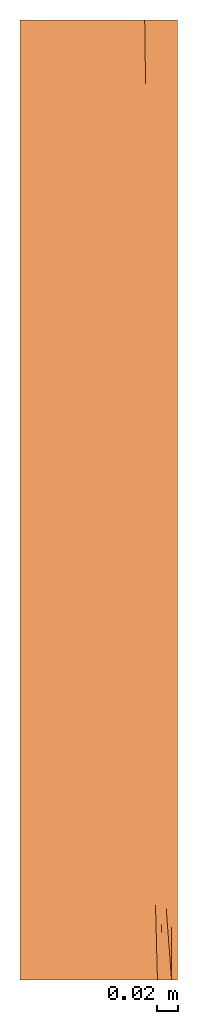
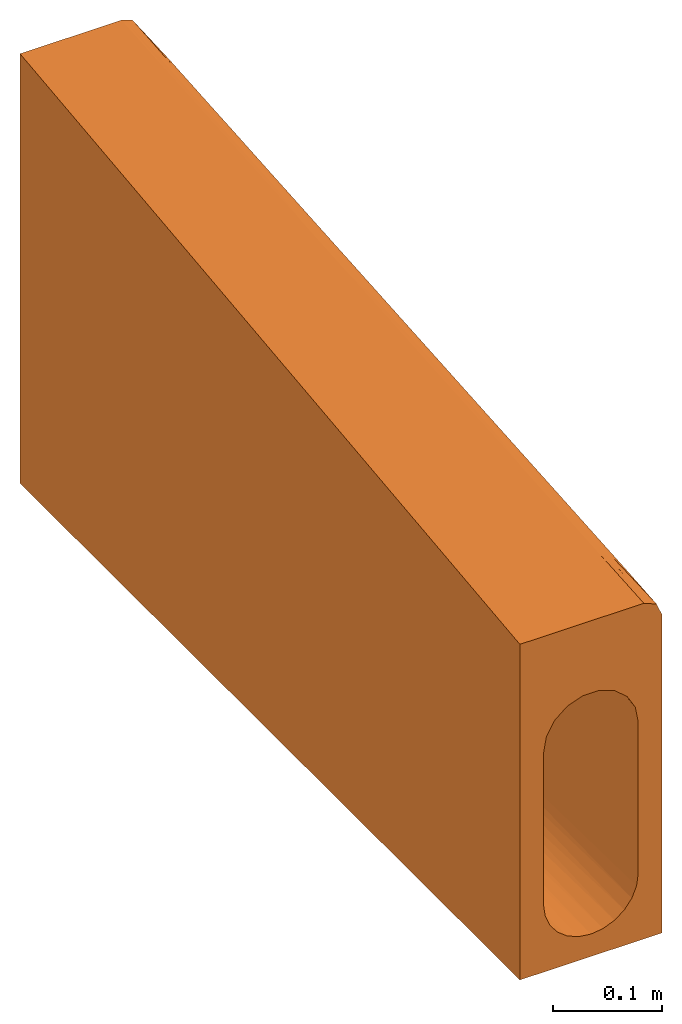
# One storey: 1 proxy.
"""IFC2X3 building model written with IfcOpenShell, lengths in millimetres."""

from ifc_helpers import new_model, entity, si_unit, converted_unit, direction, frame, origin, place, context, subcontext, project, spatial, faceted_brep, source, transform, mapped, material, element, save


model = new_model("IFC2X3")

# Units and contexts
model_context = context("Model", 3, precision=1e-06, world=origin(), true_north=direction((2.0, 6.12303176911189e-17, 1.0)))
context_of_model = context(None, 3, precision=1e-06, world=origin(), true_north=direction((2.0, 6.12303176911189e-17, 1.0)))
body_context = subcontext(model_context, "Body", "Model", "MODEL_VIEW")
ifc_project = project(units=[si_unit("LENGTHUNIT", "METRE", prefix="MILLI"), si_unit("AREAUNIT", "SQUARE_METRE", prefix="MILLI"), si_unit("VOLUMEUNIT", "CUBIC_METRE", prefix="MILLI"), converted_unit("PLANEANGLEUNIT", "DEGREE", entity("IfcRatioMeasure", 0.0174532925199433), si_unit("PLANEANGLEUNIT", "RADIAN"), dimensions=[0, 0, 0, 0, 0, 0, 0]), si_unit("TIMEUNIT", "SECOND")], contexts=[model_context, context_of_model])

# Site, building, storey
site_placement = place(None, origin())
site = spatial("IfcSite", under=ifc_project, at=site_placement, Name="Default", CompositionType="ELEMENT")
building_placement = place(site_placement, origin())
building = spatial("IfcBuilding", under=site, at=building_placement, CompositionType="ELEMENT")
storey_placement = place(building_placement, frame((0.0, 0.0, -300.0)))
storey = spatial("IfcBuildingStorey", under=building, at=storey_placement, Name="T.O. Fnd. Wall", CompositionType="ELEMENT", Elevation=-300.0)

# Proxy
ifc_material = material(Name="ACO Polymer Concrete.")
shared_shape = source(origin(), body_context, "Body", "Brep", [
    faceted_brep([(-75.0, 915.0, -355.0), (-25.0, 915.0, -323.301270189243), (-12.9409522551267, 915.0, -328.296291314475), (-35.3553390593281, 915.0, -315.355339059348), (0.0, 915.0, -330.0), (-50.0, 915.0, -280.0), (-48.2962913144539, 915.0, -292.940952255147), (-43.3012701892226, 915.0, -305.0), (-50.0, 915.0, -5.0), (-75.0, 915.0, 125.0), (12.9409522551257, 915.0, -328.296291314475), (75.0, 915.0, -355.0), (25.0, 915.0, -323.301270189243), (35.3553390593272, 915.0, -315.355339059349), (43.3012701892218, 915.0, -305.0), (48.2962913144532, 915.0, -292.940952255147), (50.0, 915.0, -280.0), (75.0, 915.0, 20.0), (50.0, 915.0, -5.0), (-46.9862804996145, 915.0, 12.0964746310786), (-38.311609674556, 915.0, 27.1281895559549), (-8.68537778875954, 915.0, 44.2398640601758), (-16.8455091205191, 915.0, 41.2689386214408), (32.2861220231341, 915.0, 125.0), (-25.0056404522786, 915.0, 38.2980131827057), (-31.6586250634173, 915.0, 32.7131013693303), (8.67379421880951, 915.0, 44.2419058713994), (50.6387127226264, 915.0, 110.917561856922), (46.9852258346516, 915.0, 12.0993728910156), (42.6413912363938, 915.0, 19.6221563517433), (38.297556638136, 915.0, 27.144939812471), (25.0028027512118, 915.0, 38.299651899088), (16.8382984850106, 915.0, 41.2707788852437), (35.1777388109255, 915.0, 124.018428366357), (45.5491200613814, 915.0, 118.534675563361), (47.2456509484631, 915.0, 115.995637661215), (75.0, 0.0, -355.0), (12.9409522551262, 0.0, -328.296291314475), (0.0, 0.0, -330.0), (-75.0, 0.0, -355.0), (25.0, 0.0, -323.301270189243), (48.2962913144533, 0.0, -292.940952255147), (43.3012701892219, 0.0, -305.0), (35.3553390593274, 0.0, -315.355339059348), (50.0, 0.0, -280.0), (-12.9409522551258, 0.0, -328.296291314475), (-25.0, 0.0, -323.301270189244), (-35.3553390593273, 0.0, -315.355339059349), (-43.3012701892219, 0.0, -305.0), (-48.2962913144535, 0.0, -292.940952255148), (-50.0, 0.0, -280.0), (-50.0, 0.0, -110.0), (-75.0, 0.0, 20.0), (50.0, 0.0, -110.0), (75.0, 0.0, 1.0), (46.9852258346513, 0.0, -92.9006271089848), (73.6087572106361, 0.0, 4.35875721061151), (66.0762716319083, 0.0, 15.8262716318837), (62.7175144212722, 0.0, 17.2175144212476), (56.0, 0.0, 20.0), (25.0028027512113, 0.0, -66.7003481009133), (38.2975566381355, 0.0, -77.8550601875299), (42.6413912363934, 0.0, -85.3778436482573), (-38.3116096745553, 0.0, -77.8718104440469), (-31.6586250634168, 0.0, -72.2868986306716), (-25.0056404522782, 0.0, -66.7019868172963), (-46.9862804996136, 0.0, -92.9035253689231), (8.67379421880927, 0.0, -60.7580941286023), (16.8382984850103, 0.0, -63.7292211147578), (-16.8455091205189, 0.0, -63.7310613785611), (-8.68537778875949, 0.0, -60.760135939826), (53.9592282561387, 78.7431793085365, 29.0361025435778), (52.3061479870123, 142.527282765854, 36.355589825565), (46.1939766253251, 457.499999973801, -299.134171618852), (6.52630960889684, 663.022798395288, -329.572243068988), (19.1341716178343, 457.499999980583, -326.193976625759), (39.6676670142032, 347.332704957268, -310.438071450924), (39.6676670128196, 663.022798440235, -310.438071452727), (30.4380714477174, 567.667295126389, -319.667667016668), (30.4380714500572, 251.977201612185, -319.667667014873), (-39.6676670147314, 251.977201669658, -310.438071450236), (-30.4380714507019, 347.332704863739, -319.667667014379), (-39.6676670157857, 567.667295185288, -310.438071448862), (-30.4380714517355, 663.022798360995, -319.667667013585), (6.52630961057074, 347.332704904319, -329.572243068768), (49.039264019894, 307.805136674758, -289.754516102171), (49.1517479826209, 621.55277183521, -289.170914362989), (50.0, 457.5, -280.0), (-6.52630961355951, 567.66729515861, -329.572243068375), (-6.52630961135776, 251.977201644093, -329.572243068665), (-19.1341716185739, 457.499999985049, -326.193976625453), (-46.1939766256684, 457.499999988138, -299.134171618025), (-49.1517479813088, 293.447228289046, -289.170914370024), (-50.0, 457.5, -280.0), (-49.0392640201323, 607.194863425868, -289.754516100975), (50.0, 228.749977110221, -83.7500026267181), (-45.6161846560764, 151.374253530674, -72.1556963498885), (-40.525441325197, 151.691640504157, -63.3064414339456), (-26.1425835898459, 319.117169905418, -30.758812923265), (-22.6264142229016, 468.087887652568, -11.6974939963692), (-17.1054853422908, 291.895291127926, -29.52081817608), (-13.7351261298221, 139.743498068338, -45.8873977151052), (-0.005883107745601, 207.708977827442, -36.1645438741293), (-45.4895057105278, 457.499999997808, -36.746569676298), (-43.3061272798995, 291.929965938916, -51.5082545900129), (-48.4959124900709, 343.124993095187, -58.4534572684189), (-50.0, 228.7500118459, -83.7499986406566), (-48.8150241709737, 156.499635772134, -81.2200543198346), (-43.3061272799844, 623.070034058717, -13.5085746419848), (-32.1474698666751, 707.32437630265, 9.46380395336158), (-39.7970535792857, 438.303503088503, -29.4341712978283), (-25.3659134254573, 643.403662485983, 6.92114557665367), (-17.1054853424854, 623.104708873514, 8.48681992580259), (-23.1017905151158, 162.530842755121, -47.0058562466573), (-11.6402777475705, 459.893930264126, -8.59912157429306), (-32.1474698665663, 207.675623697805, -47.8729381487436), (-48.4799848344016, 569.265502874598, -32.4396202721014), (-50.0, 686.2499881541, -31.2500013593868), (-48.7942808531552, 756.658782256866, -12.2561772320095), (-50.0, 457.499976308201, -57.5000027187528), (-0.00588310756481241, 707.291022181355, 21.1645431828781), (-11.4413517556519, 757.325485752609, 25.57955810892), (-21.1360240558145, 769.052356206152, 23.5649154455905), (13.9181850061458, 138.224516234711, -46.1143831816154), (8.59170627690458, 254.404820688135, -31.5497093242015), (32.1378413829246, 707.279567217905, 9.46674258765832), (40.5244871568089, 763.441112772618, 6.89563798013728), (45.6152645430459, 763.599441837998, -1.8982969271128), (43.2998920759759, 623.114424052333, -13.4926792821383), (48.4789772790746, 345.621480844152, -58.0996966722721), (48.7949775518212, 158.257618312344, -80.9282784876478), (48.8148206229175, 758.504515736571, -12.1366089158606), (48.4942189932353, 571.874971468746, -32.1967142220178), (45.5828308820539, 150.80227960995, -72.1471799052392), (40.4735315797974, 152.216382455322, -63.1745279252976), (39.7915875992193, 476.642308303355, -25.0274509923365), (43.2998920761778, 291.885575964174, -51.5025470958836), (32.1378413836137, 207.720432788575, -47.8597154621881), (25.8163549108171, 615.344756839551, 3.43290560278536), (22.522146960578, 757.351350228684, 21.5494322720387), (12.9353951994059, 769.053615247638, 26.5498341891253), (-45.5822848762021, 764.25031467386, -1.750292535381), (23.2661286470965, 163.982440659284, -46.9252840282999), (21.094437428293, 457.5000000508, -12.1676196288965), (17.0984146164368, 291.89277535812, -29.5185331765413), (10.7994643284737, 482.627578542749, -5.79672071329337), (26.1834725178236, 322.201260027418, -30.4300080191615), (32.1378446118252, 457.500000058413, -19.1964891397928), (50.0, 457.499954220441, -57.5000052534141), (50.0, 686.249977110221, -31.2500026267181), (45.4872268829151, 457.500000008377, -36.7415754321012), (-32.1474703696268, 457.500000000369, -19.2045675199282), (-40.4721208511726, 762.621200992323, 6.87387142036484), (8.26860876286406, 643.400208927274, 13.1443724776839), (-0.00588490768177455, 457.500000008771, -7.50000034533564), (17.0984146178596, 623.107224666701, 8.48968231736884), (72.6220744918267, 63.0394066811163, 13.3938506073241), (72.903513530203, 78.7431755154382, 10.45929821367), (60.3981256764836, 337.462938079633, 53.3883556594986), (61.4656852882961, 386.236368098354, 56.2271285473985), (58.1336424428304, 410.412668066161, 62.10871142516), (41.1833526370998, 718.142058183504, 102.024389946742), (36.3676655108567, 757.513641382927, 106.927794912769), (38.408437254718, 678.770462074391, 97.8916923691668), (58.647658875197, 580.676489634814, 74.2343415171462), (59.024658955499, 600.027284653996, 73.0803674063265), (56.6881105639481, 635.526354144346, 81.8705673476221), (54.8316858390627, 757.513642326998, 91.9989646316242), (52.1817413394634, 796.885235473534, 101.150005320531), (54.5454335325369, 716.297704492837, 91.2849539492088), (68.9868084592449, 196.857953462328, 29.1453539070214), (66.7114192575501, 282.821372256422, 39.0852852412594), (66.0509768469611, 236.229546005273, 37.9690848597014), (39.5007441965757, 783.963138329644, 109.57346368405), (62.6734491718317, 421.868187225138, 56.2522396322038), (61.4901920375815, 477.365401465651, 61.8907437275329), (58.841233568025, 477.218855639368, 67.0354991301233), (48.0776300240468, 531.870735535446, 80.0992897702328), (51.5115430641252, 480.592430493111, 73.3826102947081), (51.52174468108, 531.37678792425, 78.5261044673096), (42.4365141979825, 810.412630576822, 111.474521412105), (46.5852401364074, 776.442357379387, 105.775031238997), (44.7612265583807, 847.072537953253, 113.884668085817), (64.1896697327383, 312.067775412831, 46.4721760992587), (64.8140710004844, 350.604544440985, 47.2655943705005), (66.6140539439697, 314.972708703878, 38.8371936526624), (64.716705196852, 386.236352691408, 47.3979870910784), (64.1697484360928, 70.8722623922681, 25.2773272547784), (66.6271500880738, 119.388736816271, 27.8133275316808), (62.201017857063, 153.739993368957, 34.666681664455), (52.3199398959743, 324.426173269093, 56.6271062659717), (52.6417642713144, 272.502389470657, 50.9037965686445), (57.7970659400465, 302.828823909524, 52.0989277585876), (50.1115053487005, 403.169350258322, 65.7053422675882), (44.530752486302, 442.540924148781, 70.7833847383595), (46.5715242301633, 363.797744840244, 61.747282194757), (47.9520052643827, 470.310295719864, 73.5093943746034), (70.8070268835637, 157.486357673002, 19.9185972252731), (68.7105404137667, 236.22953318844, 29.3778954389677), (55.3130516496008, 470.099428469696, 70.0309525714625), (54.6513521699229, 528.763653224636, 76.0597942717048), (62.3149828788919, 264.7271658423, 45.0187598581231), (58.0987621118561, 167.339743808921, 38.074454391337), (58.4362881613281, 110.635255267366, 31.9381889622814), (59.7571586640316, 51.1957895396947, 25.1810307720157), (69.9905013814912, 104.728770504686, 22.0030108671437), (68.023256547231, 170.490327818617, 29.992392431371), (50.7645656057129, 609.311082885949, 86.6876848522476), (55.3022131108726, 594.187587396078, 81.1269469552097), (48.8342274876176, 855.437693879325, 110.790683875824), (50.7587998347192, 863.011308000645, 108.205344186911), (45.9005811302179, 678.770470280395, 96.3403789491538), (42.715542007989, 656.669360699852, 94.9821555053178), (44.1693903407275, 744.591550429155, 103.906734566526), (46.3672864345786, 607.224558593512, 88.6656892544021), (48.9958986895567, 710.400763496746, 97.6845467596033), (40.9609723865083, 915.0, 122.055285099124), (41.3423634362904, 866.137108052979, 117.718786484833), (51.8654682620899, 742.415632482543, 97.6430259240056), (49.0302410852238, 799.972124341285, 105.861017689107), (52.7351993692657, 836.256817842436, 101.458262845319), (64.7911126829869, 190.357270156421, 35.9392493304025), (70.8682989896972, 131.107566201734, 21.0614236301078), (48.9421818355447, 915.0, 113.456599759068), (53.1663502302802, 678.770470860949, 90.7750786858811), (56.9281723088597, 678.77046681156, 82.5396664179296), (60.9220077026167, 528.763640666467, 64.5195739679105), (59.4435548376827, 528.763650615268, 69.6218389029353), (49.2293843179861, 662.028784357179, 92.8525746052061), (57.2748063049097, 535.991532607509, 73.8394526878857), (42.4899807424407, 521.284103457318, 79.8194872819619), (56.6554472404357, 363.343511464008, 58.7790229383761), (54.3239825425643, 423.457208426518, 66.1394004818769), (40.4492089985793, 600.027282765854, 88.8555898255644), (34.3268937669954, 836.256820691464, 115.963897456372), (38.0619209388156, 851.922983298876, 117.303720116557), (43.8525891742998, 915.0, 121.073713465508), (48.6122959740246, 285.054565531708, 52.7111796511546), (50.4592219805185, 213.790924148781, 44.5333847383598), (59.7429440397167, 236.077510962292, 44.3121282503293), (62.8193564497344, 457.499996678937, 55.9587805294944), (55.7622858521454, 225.552118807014, 45.0315792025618), (58.6375354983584, 0.0, 18.9074970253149), (69.4752237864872, 57.2312735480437, 19.2615710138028), (71.5445373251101, 54.2404560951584, 15.7680289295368), (69.4350288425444, 0.0, 14.4350288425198), (70.8262716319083, 0.0, 11.0762716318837), (38.0693555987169, 915.0, 123.036856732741), (72.2175144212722, 0.0, 7.71751442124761)], [[[0, 1, 2]], [[1, 0, 3]], [[0, 2, 4]], [[5, 6, 0]], [[7, 3, 0]], [[6, 7, 0]], [[8, 5, 0, 9]], [[4, 10, 11, 0]], [[11, 12, 13]], [[12, 11, 10]], [[13, 14, 11]], [[15, 16, 11]], [[14, 15, 11]], [[17, 11, 16, 18]], [[19, 8, 9]], [[20, 19, 9]], [[21, 22, 9, 23]], [[9, 24, 25, 20]], [[26, 21, 23, 27]], [[17, 28, 29, 30]], [[17, 18, 28]], [[27, 17, 30, 31]], [[27, 31, 32, 26]], [[23, 33, 34, 35]], [[36, 37, 38, 39]], [[37, 36, 40]], [[41, 42, 36]], [[43, 40, 36]], [[42, 43, 36]], [[36, 44, 41]], [[39, 45, 46]], [[45, 39, 38]], [[39, 46, 47]], [[47, 48, 39]], [[49, 50, 39]], [[48, 49, 39]], [[39, 50, 51, 52]], [[53, 44, 36, 54]], [[55, 53, 54]], [[54, 56, 57, 58]], [[54, 59, 60, 61]], [[54, 61, 62, 55]], [[52, 63, 64, 65]], [[51, 66, 52]], [[63, 52, 66]], [[59, 67, 68, 60]], [[52, 65, 69, 70]], [[70, 67, 59, 52]], [[0, 11, 36, 39]], [[0, 39, 52, 9]], [[9, 52, 23]], [[52, 59, 71, 72]], [[11, 17, 54, 36]], [[42, 41, 73]], [[10, 74, 75]], [[76, 77, 78, 79]], [[73, 76, 42]], [[37, 40, 75]], [[80, 47, 81]], [[3, 82, 83]], [[78, 75, 79]], [[14, 77, 73]], [[37, 75, 84]], [[85, 73, 41]], [[86, 87, 16]], [[44, 85, 41]], [[76, 43, 42]], [[13, 12, 78]], [[73, 15, 14]], [[4, 2, 88]], [[77, 76, 73]], [[75, 78, 12]], [[81, 47, 46]], [[75, 12, 10]], [[84, 38, 37]], [[74, 84, 75]], [[84, 74, 88, 89]], [[46, 45, 90]], [[89, 38, 84]], [[4, 88, 74]], [[90, 81, 46]], [[49, 48, 91]], [[80, 48, 47]], [[79, 43, 76]], [[82, 91, 80]], [[3, 83, 1]], [[92, 93, 50]], [[88, 2, 90]], [[90, 2, 1]], [[79, 40, 43]], [[3, 7, 82]], [[86, 85, 87]], [[83, 81, 90]], [[4, 74, 10]], [[82, 7, 91]], [[6, 91, 7]], [[89, 45, 38]], [[6, 94, 91]], [[13, 77, 14]], [[13, 78, 77]], [[89, 88, 90]], [[92, 94, 93]], [[6, 5, 94]], [[40, 79, 75]], [[1, 83, 90]], [[81, 83, 82, 80]], [[45, 89, 90]], [[48, 80, 91]], [[15, 73, 86]], [[87, 85, 44]], [[85, 86, 73]], [[15, 86, 16]], [[49, 91, 92]], [[93, 94, 5]], [[94, 92, 91]], [[49, 92, 50]], [[53, 95, 16, 87]], [[63, 96, 97]], [[98, 99, 100]], [[101, 100, 102]], [[103, 104, 105]], [[106, 105, 107]], [[108, 109, 110]], [[99, 111, 112]], [[113, 100, 101]], [[99, 112, 114]], [[104, 97, 96]], [[115, 63, 97]], [[116, 117, 118]], [[116, 105, 119]], [[108, 110, 103]], [[112, 120, 114]], [[121, 122, 22]], [[21, 26, 120]], [[123, 102, 124]], [[30, 125, 31]], [[107, 105, 96]], [[126, 127, 128]], [[112, 122, 121]], [[129, 95, 130]], [[131, 132, 127]], [[133, 62, 134]], [[135, 136, 137]], [[24, 122, 109]], [[125, 138, 139]], [[32, 140, 26]], [[137, 61, 60]], [[126, 29, 127]], [[20, 141, 19]], [[68, 123, 142]], [[70, 102, 67]], [[143, 144, 145]], [[146, 137, 142]], [[143, 138, 147]], [[139, 140, 32]], [[129, 132, 148]], [[149, 132, 131]], [[136, 135, 150]], [[150, 128, 132]], [[119, 105, 106]], [[107, 66, 51]], [[108, 103, 116]], [[141, 118, 19]], [[148, 132, 149]], [[117, 8, 118]], [[116, 119, 117]], [[131, 28, 18]], [[136, 150, 129]], [[133, 130, 55]], [[100, 113, 98]], [[95, 53, 130]], [[129, 148, 95]], [[151, 115, 110, 109]], [[141, 20, 152]], [[112, 111, 122]], [[21, 121, 22]], [[153, 145, 154]], [[123, 67, 102]], [[114, 154, 102]], [[31, 139, 32]], [[135, 147, 125]], [[116, 103, 105]], [[146, 143, 147]], [[106, 107, 51]], [[66, 107, 96]], [[66, 96, 63]], [[104, 96, 105]], [[64, 113, 65]], [[97, 104, 115]], [[108, 116, 141]], [[19, 118, 8]], [[118, 141, 116]], [[152, 108, 141]], [[152, 109, 108]], [[109, 152, 20]], [[149, 131, 18]], [[28, 131, 127]], [[126, 30, 29]], [[128, 127, 132]], [[126, 125, 30]], [[126, 128, 125]], [[29, 28, 127]], [[136, 129, 133]], [[55, 130, 53]], [[130, 133, 129]], [[134, 136, 133]], [[134, 137, 136]], [[134, 61, 137]], [[61, 134, 62]], [[133, 55, 62]], [[104, 103, 110]], [[104, 110, 115]], [[129, 150, 132]], [[128, 150, 135]], [[128, 135, 125]], [[137, 147, 135]], [[111, 109, 122]], [[109, 20, 25, 24]], [[122, 24, 22]], [[121, 120, 112]], [[121, 21, 120]], [[111, 151, 109]], [[151, 111, 99]], [[115, 151, 98]], [[120, 154, 114]], [[114, 100, 99]], [[100, 114, 102]], [[99, 98, 151]], [[115, 113, 64]], [[98, 113, 115]], [[101, 69, 113]], [[140, 139, 155]], [[70, 101, 102]], [[65, 113, 69]], [[101, 70, 69]], [[140, 120, 26]], [[120, 140, 153]], [[155, 139, 138]], [[139, 31, 125]], [[155, 138, 143]], [[138, 125, 147]], [[155, 143, 145]], [[146, 144, 143]], [[140, 155, 153]], [[124, 102, 154]], [[120, 153, 154]], [[153, 155, 145]], [[144, 146, 142]], [[137, 146, 147]], [[144, 142, 123]], [[60, 142, 137]], [[124, 144, 123]], [[142, 60, 68]], [[124, 145, 144]], [[145, 124, 154]], [[68, 67, 123]], [[64, 63, 115]], [[51, 50, 93, 5]], [[5, 8, 117, 119]], [[156, 56, 157]], [[158, 159, 160]], [[161, 162, 163]], [[164, 165, 166]], [[167, 168, 169]], [[170, 171, 172]], [[173, 162, 161]], [[174, 175, 176]], [[177, 178, 179]], [[180, 181, 182]], [[158, 183, 159]], [[184, 185, 186]], [[187, 188, 189]], [[190, 191, 192]], [[193, 194, 195]], [[196, 178, 177]], [[197, 198, 170]], [[179, 199, 200]], [[183, 201, 172]], [[202, 72, 203]], [[187, 204, 58]], [[188, 205, 206]], [[207, 200, 208]], [[209, 210, 35]], [[211, 161, 212]], [[173, 161, 213]], [[207, 211, 214]], [[215, 181, 213]], [[180, 213, 181]], [[182, 216, 217]], [[218, 168, 219]], [[220, 168, 167]], [[221, 172, 201]], [[157, 222, 156]], [[219, 168, 209]], [[209, 182, 219]], [[210, 27, 223, 35]], [[169, 218, 224]], [[166, 169, 224]], [[166, 225, 169]], [[224, 208, 166]], [[175, 226, 227]], [[227, 164, 208]], [[200, 199, 176]], [[215, 228, 224]], [[200, 176, 229]], [[228, 208, 224]], [[214, 177, 179]], [[177, 230, 196]], [[231, 193, 190]], [[193, 196, 194]], [[160, 232, 231]], [[225, 166, 165]], [[225, 167, 169]], [[233, 177, 214]], [[212, 161, 163]], [[214, 212, 233]], [[213, 161, 211]], [[213, 211, 215]], [[173, 213, 180]], [[228, 215, 211]], [[215, 224, 218]], [[218, 181, 215]], [[34, 182, 209]], [[219, 182, 181]], [[182, 217, 180]], [[33, 234, 235]], [[217, 235, 180]], [[173, 180, 235]], [[235, 234, 173]], [[234, 162, 173]], [[33, 23, 234]], [[34, 209, 35]], [[236, 182, 34]], [[210, 168, 220]], [[168, 210, 209]], [[27, 210, 220]], [[233, 212, 163]], [[211, 212, 214]], [[191, 190, 237]], [[237, 190, 195]], [[190, 192, 231]], [[237, 238, 191]], [[239, 201, 192]], [[190, 193, 195]], [[232, 178, 196]], [[232, 196, 193]], [[199, 178, 232]], [[230, 177, 233]], [[230, 194, 196]], [[178, 199, 179]], [[232, 160, 199]], [[176, 227, 229]], [[160, 176, 199]], [[184, 159, 183]], [[158, 231, 192]], [[176, 160, 159]], [[201, 158, 192]], [[158, 201, 183]], [[171, 170, 198]], [[240, 174, 186]], [[183, 171, 184]], [[175, 174, 240]], [[176, 159, 174]], [[239, 192, 241]], [[201, 239, 221]], [[188, 221, 189]], [[172, 206, 170]], [[186, 174, 184]], [[184, 171, 185]], [[159, 184, 174]], [[206, 172, 221]], [[170, 206, 222]], [[171, 183, 172]], [[198, 185, 171]], [[242, 58, 204]], [[205, 188, 243]], [[71, 59, 242]], [[156, 205, 244]], [[57, 245, 187, 58]], [[71, 203, 72]], [[187, 189, 203]], [[202, 203, 189]], [[187, 245, 243]], [[187, 243, 188]], [[170, 222, 197]], [[243, 245, 246]], [[200, 207, 179]], [[214, 179, 207]], [[202, 239, 241]], [[221, 239, 189]], [[188, 206, 221]], [[222, 206, 205]], [[156, 222, 205]], [[157, 197, 222]], [[244, 205, 243]], [[56, 54, 157]], [[160, 231, 158]], [[231, 232, 193]], [[204, 187, 203]], [[242, 204, 71]], [[71, 204, 203]], [[168, 218, 169]], [[218, 219, 181]], [[208, 164, 166]], [[165, 164, 226]], [[226, 164, 227]], [[211, 207, 228]], [[228, 207, 208]], [[235, 247, 33]], [[235, 217, 247]], [[216, 182, 236]], [[216, 247, 217]], [[191, 238, 241]], [[192, 191, 241]], [[227, 208, 229]], [[202, 238, 72]], [[200, 229, 208]], [[226, 175, 240]], [[176, 175, 227]], [[239, 202, 189]], [[202, 241, 238]], [[246, 244, 243]], [[244, 246, 248]], [[248, 156, 244]], [[156, 248, 56]], [[17, 27, 220, 167]], [[9, 22, 24]], [[23, 35, 223, 27]], [[34, 33, 247, 216]], [[34, 216, 236]], [[54, 58, 242, 59]], [[57, 56, 248, 246]], [[57, 246, 245]], [[52, 72, 238, 237]], [[52, 237, 195, 194]], [[52, 194, 230, 233]], [[52, 233, 163, 162]], [[52, 162, 234, 23]], [[16, 95, 148, 149]], [[16, 149, 18]], [[53, 87, 44]], [[5, 119, 106, 51]], [[17, 167, 225, 165]], [[17, 165, 226, 240]], [[17, 240, 186, 185]], [[17, 185, 198, 197]], [[17, 197, 157, 54]]]),
])
proxy_placement = place(storey_placement, frame((-5682.99544306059, -10247.1166238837, 300.0)))
element("IfcBuildingElementProxy", 1, at=proxy_placement, inside=storey, material=ifc_material, Name="Civil-Drainage-Channel-ACO-KerbDrain-HB480(amar):4932 - RH drop kerb - 915mm LG:4932 - RH drop kerb - 915mm LG", ObjectType="4932 - RH drop kerb - 915mm LG", CompositionType="ELEMENT", context=body_context, shape_type="MappedRepresentation", body=[
    mapped(shared_shape, transform((0.0, 0.0, 0.0), scale=1.0)),
])

save(model, "model.ifc")
